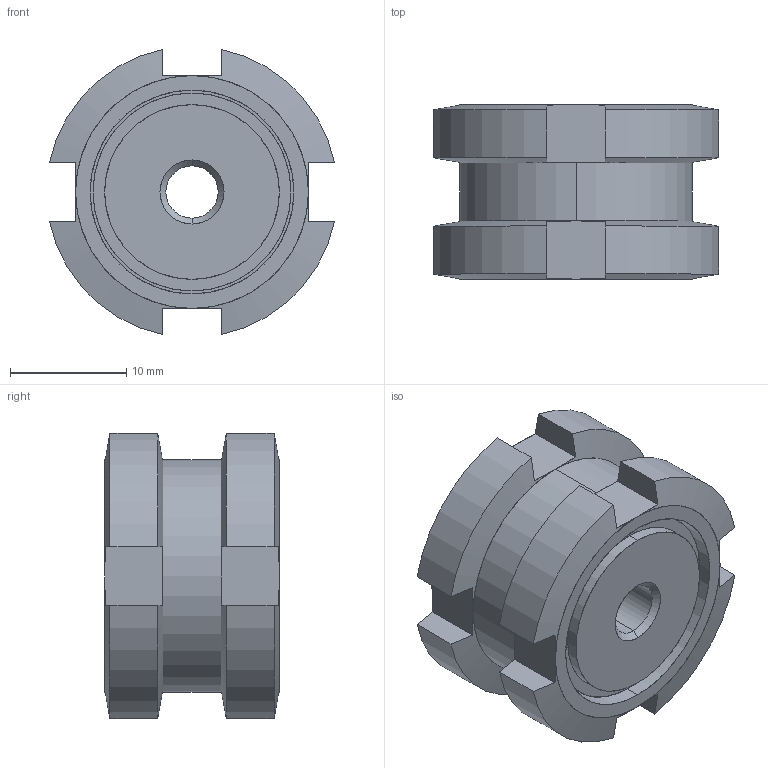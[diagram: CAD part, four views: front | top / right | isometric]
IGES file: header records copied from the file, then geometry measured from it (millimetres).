
Start section: SolidWorks IGES file using analytic representation for surfaces
Global section: file name: C:\Documents and Settings\IanO.IANOHOME\My Documents\Wix and Auto CAD Work\CAD Models\Parametric Models\Wix Models\6200\6200_IGES\6200.W038.igs; native system: SolidWorks 2009; preprocessor: SolidWorks 2009; author: IanO; date: 101017.134138; units: millimetre
Bounding box: 24.49 x 15 x 24.49 mm (x, y, z)
Surface area: 3849.5 mm2 (no closed solid volume)
Topology: 0 solids, 0 shells, 74 faces, 858 edges, 858 vertices
Faces by surface type: revolution 42, bspline 32
